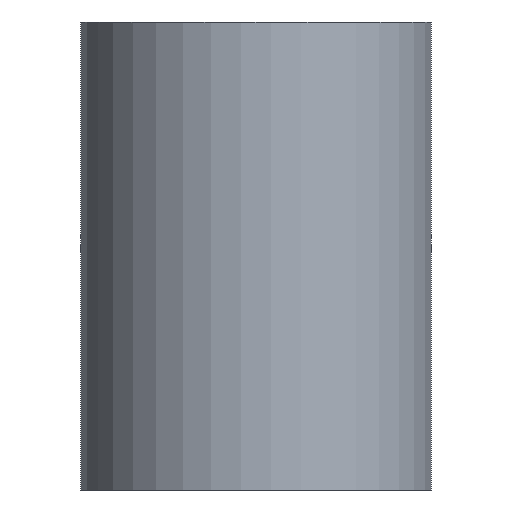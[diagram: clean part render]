
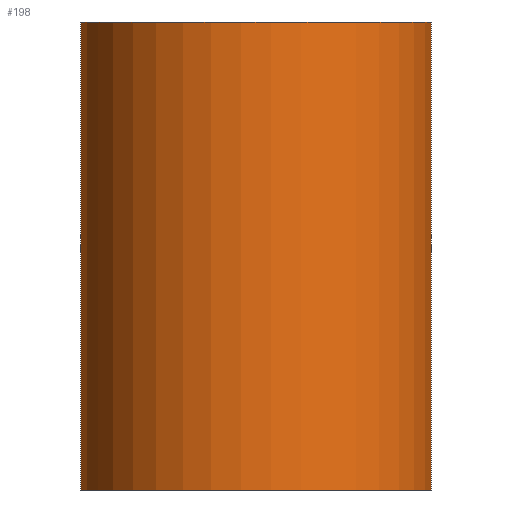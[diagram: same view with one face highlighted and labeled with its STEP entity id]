
A CAD part, left-side view. The second image highlights one B-rep face of the part: STEP entity #198.
In plain terms, the highlighted cylindrical face has radius 37.5 mm (diameter 75 mm), a partial arc.
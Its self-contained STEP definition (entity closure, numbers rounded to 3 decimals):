
#31=CYLINDRICAL_SURFACE('',#284,37.5);
#35=CIRCLE('',#282,37.5);
#37=CIRCLE('',#285,37.5);
#46=FACE_OUTER_BOUND('',#58,.T.);
#58=EDGE_LOOP('',(#151,#152,#153,#154));
#68=LINE('',#375,#84);
#74=LINE('',#387,#90);
#84=VECTOR('',#309,10.);
#90=VECTOR('',#317,10.);
#99=VERTEX_POINT('',#371);
#101=VERTEX_POINT('',#374);
#104=VERTEX_POINT('',#381);
#106=VERTEX_POINT('',#385);
#116=EDGE_CURVE('',#101,#99,#68,.T.);
#122=EDGE_CURVE('',#104,#106,#74,.T.);
#123=EDGE_CURVE('',#101,#106,#35,.T.);
#125=EDGE_CURVE('',#104,#99,#37,.T.);
#151=ORIENTED_EDGE('',*,*,#116,.T.);
#152=ORIENTED_EDGE('',*,*,#125,.F.);
#153=ORIENTED_EDGE('',*,*,#122,.T.);
#154=ORIENTED_EDGE('',*,*,#123,.F.);
#198=ADVANCED_FACE('',(#46),#31,.T.);
#282=AXIS2_PLACEMENT_3D('',#389,#320,#321);
#284=AXIS2_PLACEMENT_3D('',#391,#324,#325);
#285=AXIS2_PLACEMENT_3D('',#392,#326,#327);
#309=DIRECTION('',(0.,0.,-1.));
#317=DIRECTION('',(0.,0.,1.));
#320=DIRECTION('center_axis',(0.,0.,1.));
#321=DIRECTION('ref_axis',(1.,0.,0.));
#324=DIRECTION('center_axis',(0.,0.,1.));
#325=DIRECTION('ref_axis',(-1.,0.,0.));
#326=DIRECTION('center_axis',(0.,0.,-1.));
#327=DIRECTION('ref_axis',(1.,0.,0.));
#371=CARTESIAN_POINT('',(33.463,16.925,-50.));
#374=CARTESIAN_POINT('',(33.463,16.925,50.));
#375=CARTESIAN_POINT('',(33.463,16.925,0.));
#381=CARTESIAN_POINT('',(33.463,-16.925,-50.));
#385=CARTESIAN_POINT('',(33.463,-16.925,50.));
#387=CARTESIAN_POINT('',(33.463,-16.925,0.));
#389=CARTESIAN_POINT('Origin',(0.,0.,50.));
#391=CARTESIAN_POINT('Origin',(0.,0.,0.));
#392=CARTESIAN_POINT('Origin',(0.,0.,-50.));
